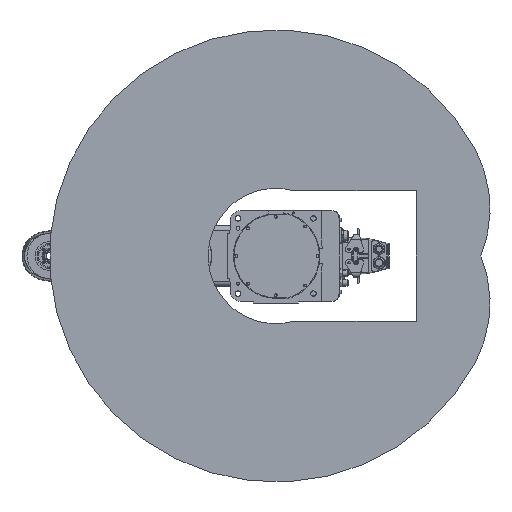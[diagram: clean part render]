
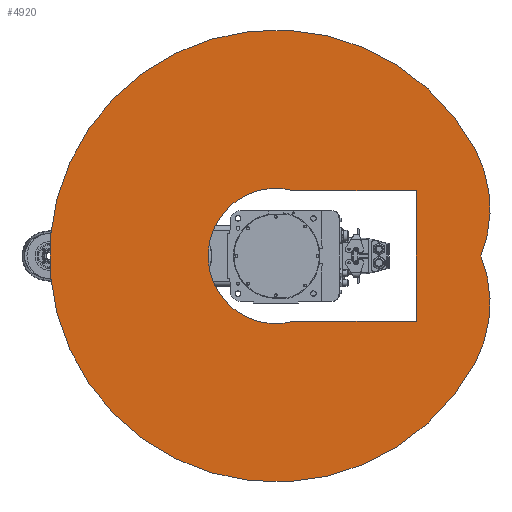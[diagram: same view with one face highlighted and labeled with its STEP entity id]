
A CAD part, front view. The second image highlights one B-rep face of the part: STEP entity #4920.
In plain terms, the highlighted planar face has unit normal (0, -1, 0).
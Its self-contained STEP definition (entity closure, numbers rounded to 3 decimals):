
#4920 = ADVANCED_FACE( '', ( #12396, #12397 ), #12398, .F. );
#12396 = FACE_OUTER_BOUND( '', #23553, .T. );
#12397 = FACE_BOUND( '', #23554, .T. );
#12398 = PLANE( '', #23555 );
#23553 = EDGE_LOOP( '', ( #38358, #38359, #38360 ) );
#23554 = EDGE_LOOP( '', ( #38361, #38362, #38363, #38364 ) );
#23555 = AXIS2_PLACEMENT_3D( '', #38365, #38366, #38367 );
#38358 = ORIENTED_EDGE( '', *, *, #60377, .F. );
#38359 = ORIENTED_EDGE( '', *, *, #61503, .F. );
#38360 = ORIENTED_EDGE( '', *, *, #61504, .F. );
#38361 = ORIENTED_EDGE( '', *, *, #61505, .T. );
#38362 = ORIENTED_EDGE( '', *, *, #61506, .T. );
#38363 = ORIENTED_EDGE( '', *, *, #61507, .T. );
#38364 = ORIENTED_EDGE( '', *, *, #58772, .T. );
#38365 = CARTESIAN_POINT( '', ( 46.947, 0., 88.295 ) );
#38366 = DIRECTION( '', ( 0., 1., 0. ) );
#38367 = DIRECTION( '', ( 0., 0., 1. ) );
#58772 = EDGE_CURVE( '', #69172, #69170, #69173, .T. );
#60377 = EDGE_CURVE( '', #71908, #71909, #71910, .T. );
#61503 = EDGE_CURVE( '', #73771, #71908, #73772, .T. );
#61504 = EDGE_CURVE( '', #71909, #73771, #73773, .T. );
#61505 = EDGE_CURVE( '', #69170, #73774, #73775, .T. );
#61506 = EDGE_CURVE( '', #73774, #73776, #73777, .T. );
#61507 = EDGE_CURVE( '', #73776, #69172, #73778, .T. );
#69170 = VERTEX_POINT( '', #84582 );
#69172 = VERTEX_POINT( '', #84585 );
#69173 = CIRCLE( '', #84586, 134.76 );
#71908 = VERTEX_POINT( '', #89548 );
#71909 = VERTEX_POINT( '', #89549 );
#71910 = CIRCLE( '', #89550, 250. );
#73771 = VERTEX_POINT( '', #92887 );
#73772 = CIRCLE( '', #92888, 250. );
#73773 = CIRCLE( '', #92889, 450. );
#73774 = VERTEX_POINT( '', #92890 );
#73775 = LINE( '', #92891, #92892 );
#73776 = VERTEX_POINT( '', #92893 );
#73777 = LINE( '', #92894, #92895 );
#73778 = LINE( '', #92896, #92897 );
#84582 = CARTESIAN_POINT( '', ( -130., 0., 35.5 ) );
#84585 = CARTESIAN_POINT( '', ( 130., 0., 35.5 ) );
#84586 = AXIS2_PLACEMENT_3D( '', #107768, #107769, #107770 );
#89548 = CARTESIAN_POINT( '', ( 0., 0., 408.287 ) );
#89549 = CARTESIAN_POINT( '', ( 211.262, 0., 397.326 ) );
#89550 = AXIS2_PLACEMENT_3D( '', #109763, #109764, #109765 );
#92887 = CARTESIAN_POINT( '', ( -211.262, 0., 397.326 ) );
#92888 = AXIS2_PLACEMENT_3D( '', #111128, #111129, #111130 );
#92889 = AXIS2_PLACEMENT_3D( '', #111131, #111132, #111133 );
#92890 = CARTESIAN_POINT( '', ( -130., 0., 280. ) );
#92891 = CARTESIAN_POINT( '', ( -130., 0., 0. ) );
#92892 = VECTOR( '', #111134, 1000. );
#92893 = CARTESIAN_POINT( '', ( 130., 0., 280. ) );
#92894 = CARTESIAN_POINT( '', ( -130., 0., 280. ) );
#92895 = VECTOR( '', #111135, 1000. );
#92896 = CARTESIAN_POINT( '', ( 130., 0., 280. ) );
#92897 = VECTOR( '', #111136, 1000. );
#107768 = CARTESIAN_POINT( '', ( 0., 0., 0. ) );
#107769 = DIRECTION( '', ( 0., 1., 0. ) );
#107770 = DIRECTION( '', ( 1., 0., 0. ) );
#109763 = CARTESIAN_POINT( '', ( 93.894, 0., 176.59 ) );
#109764 = DIRECTION( '', ( 0., 1., 0. ) );
#109765 = DIRECTION( '', ( 1., 0., 0. ) );
#111128 = CARTESIAN_POINT( '', ( -93.894, 0., 176.59 ) );
#111129 = DIRECTION( '', ( 0., 1., 0. ) );
#111130 = DIRECTION( '', ( 1., 0., 0. ) );
#111131 = CARTESIAN_POINT( '', ( 0., 0., 0. ) );
#111132 = DIRECTION( '', ( 0., 1., 0. ) );
#111133 = DIRECTION( '', ( 1., 0., 0. ) );
#111134 = DIRECTION( '', ( 0., 0., 1. ) );
#111135 = DIRECTION( '', ( 1., 0., 0. ) );
#111136 = DIRECTION( '', ( 0., 0., -1. ) );
